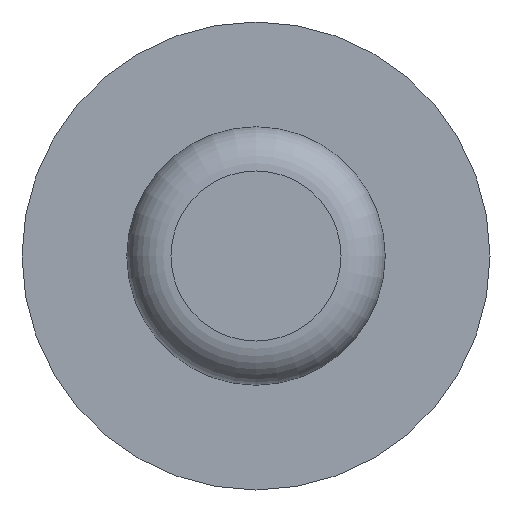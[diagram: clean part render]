
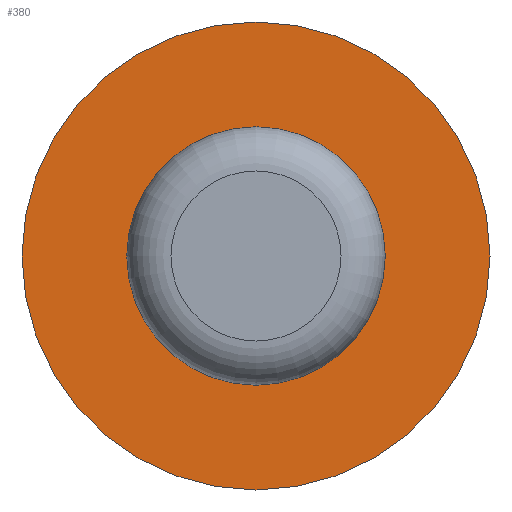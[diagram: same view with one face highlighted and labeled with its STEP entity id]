
A CAD part, front view. The second image highlights one B-rep face of the part: STEP entity #380.
In plain terms, the highlighted planar face has unit normal (0, -1, 0).
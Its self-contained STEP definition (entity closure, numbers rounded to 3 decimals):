
#16=FACE_BOUND('',#152,.T.);
#32=PLANE('',#428);
#130=FACE_OUTER_BOUND('',#151,.T.);
#151=EDGE_LOOP('',(#356,#357));
#152=EDGE_LOOP('',(#358));
#158=CIRCLE('',#402,1.464);
#165=CIRCLE('',#425,2.65);
#166=CIRCLE('',#426,2.65);
#171=VERTEX_POINT('',#549);
#201=VERTEX_POINT('',#639);
#202=VERTEX_POINT('',#641);
#209=EDGE_CURVE('',#171,#171,#158,.T.);
#253=EDGE_CURVE('',#202,#201,#165,.T.);
#254=EDGE_CURVE('',#201,#202,#166,.T.);
#356=ORIENTED_EDGE('',*,*,#253,.T.);
#357=ORIENTED_EDGE('',*,*,#254,.T.);
#358=ORIENTED_EDGE('',*,*,#209,.T.);
#380=ADVANCED_FACE('',(#130,#16),#32,.T.);
#402=AXIS2_PLACEMENT_3D('',#551,#446,#447);
#425=AXIS2_PLACEMENT_3D('',#642,#529,#530);
#426=AXIS2_PLACEMENT_3D('',#643,#531,#532);
#428=AXIS2_PLACEMENT_3D('',#645,#535,#536);
#446=DIRECTION('center_axis',(0.,1.,0.));
#447=DIRECTION('ref_axis',(1.,0.,0.));
#529=DIRECTION('center_axis',(0.,-1.,0.));
#530=DIRECTION('ref_axis',(1.,0.,0.));
#531=DIRECTION('center_axis',(0.,-1.,0.));
#532=DIRECTION('ref_axis',(1.,0.,0.));
#535=DIRECTION('center_axis',(0.,-1.,0.));
#536=DIRECTION('ref_axis',(-1.,0.,0.));
#549=CARTESIAN_POINT('',(-1.464,0.,0.));
#551=CARTESIAN_POINT('Origin',(0.,0.,0.));
#639=CARTESIAN_POINT('',(-2.65,0.,0.));
#641=CARTESIAN_POINT('',(2.65,0.,0.));
#642=CARTESIAN_POINT('Origin',(0.,0.,0.));
#643=CARTESIAN_POINT('Origin',(0.,0.,0.));
#645=CARTESIAN_POINT('Origin',(0.,0.,0.));
